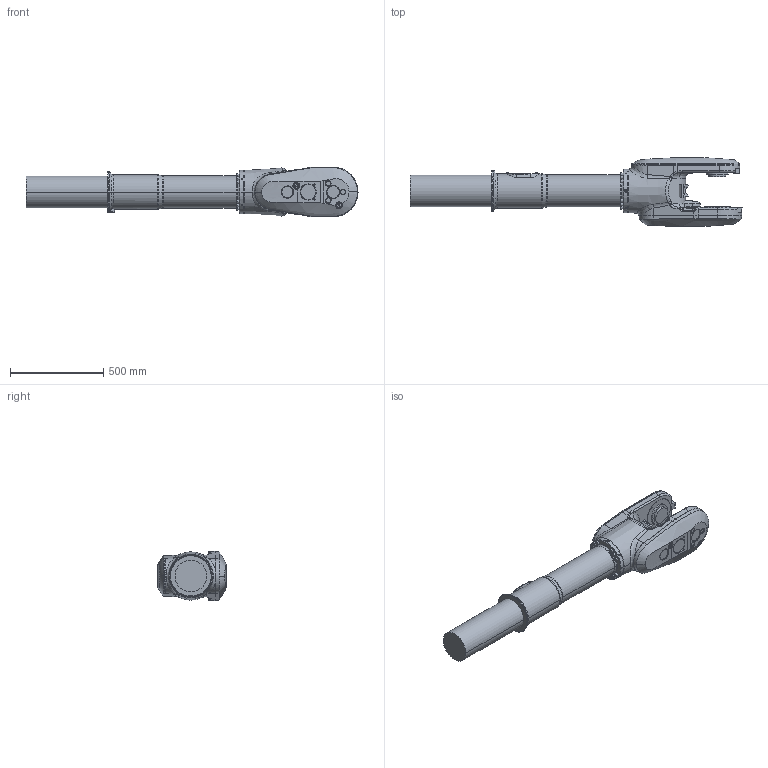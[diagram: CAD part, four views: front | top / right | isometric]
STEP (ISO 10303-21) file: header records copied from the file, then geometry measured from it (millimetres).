
FILE_DESCRIPTION (( 'STEP AP214' ), '1' );
FILE_NAME ('IRB6710_200kg-295_OC_00_LINK04_CAD.STEP', '2023-03-27T19:04:00', ( '' ), ( '' ), 'SwSTEP 2.0', 'SolidWorks 2020', '' );
FILE_SCHEMA (( 'AUTOMOTIVE_DESIGN' ));
Length unit declared in the file: millimetre
Products named in the file (1): IRB6710_200kg-295_OC_00_LINK04_CAD
Bounding box: 1781.63 x 368.88 x 267.05 mm (x, y, z)
Volume: 59652520.1 mm3; surface area: 1476655.3 mm2
Topology: 1 solids, 1 shells, 705 faces, 1720 edges, 1072 vertices
Faces by surface type: plane 291, cylinder 176, cone 142, bspline 65, torus 27, sphere 4
Entity records: 37896 total; most frequent: CARTESIAN_POINT 14554, ORIENTED_EDGE 3400, DIRECTION 3012, EDGE_CURVE 1700, AXIS2_PLACEMENT_3D 1112, VERTEX_POINT 1072, VECTOR 788, LINE 788
